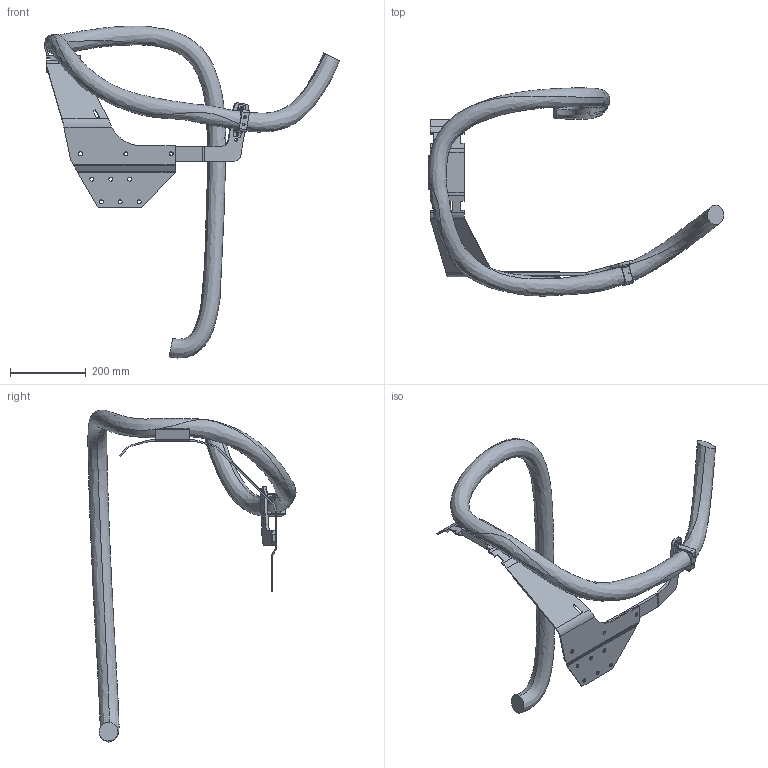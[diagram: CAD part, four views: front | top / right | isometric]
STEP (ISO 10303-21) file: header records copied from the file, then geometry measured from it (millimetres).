
FILE_DESCRIPTION (( 'STEP AP203' ), '1' );
FILE_NAME ('IRB6700_200_280_MH_CABLES_MH_link1.STEP', '2013-10-23T12:31:11', ( 'ABB' ), ( 'ABB' ), 'SwSTEP 2.0', 'SolidWorks 2012', '' );
FILE_SCHEMA (( 'CONFIG_CONTROL_DESIGN' ));
Length unit declared in the file: millimetre
Products named in the file (1): IRB6700_200_280_MH_CABLES_MH_link1
Bounding box: 781.82 x 550.08 x 877.75 mm (x, y, z)
Volume: 5158738.3 mm3; surface area: 612651.1 mm2
Topology: 1 solids, 1 shells, 263 faces, 658 edges, 406 vertices
Faces by surface type: plane 167, cylinder 83, bspline 7, cone 6
Entity records: 9695 total; most frequent: CARTESIAN_POINT 3294, ORIENTED_EDGE 1316, DIRECTION 1284, EDGE_CURVE 658, VECTOR 432, LINE 432, AXIS2_PLACEMENT_3D 426, VERTEX_POINT 406
